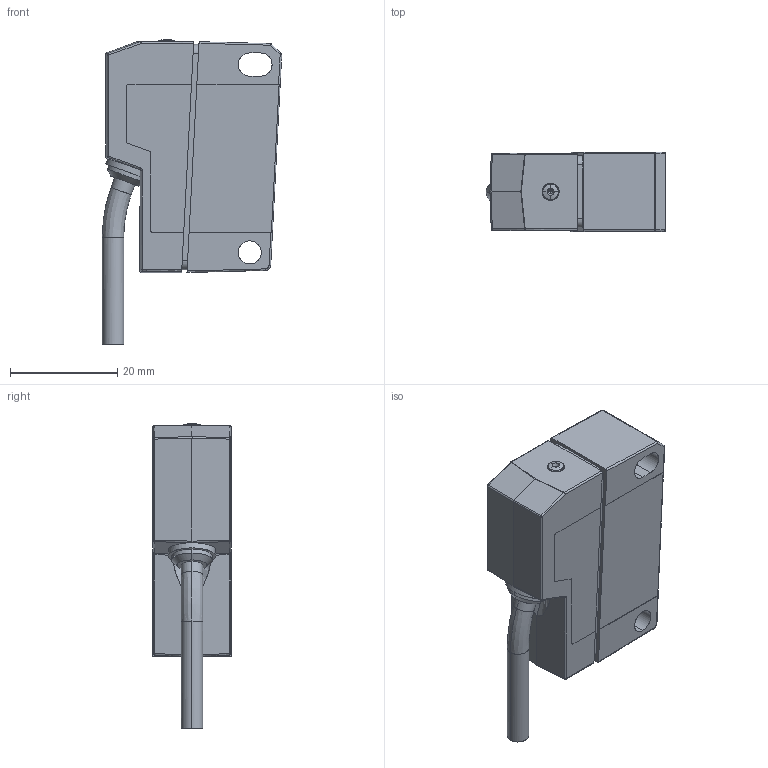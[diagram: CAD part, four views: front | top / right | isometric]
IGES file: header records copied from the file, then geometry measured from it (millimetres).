
Start section: Comment
Global section: file name: xxDK_14_TeachIn_Kabel.igs; native system:  By UGS Corp.; preprocessor: XPlus GENERIC/IGES 3.0; author: Author; organization: Title; date: 20101213.105723; units: millimetre
Bounding box: 33.43 x 14.8 x 56.8 mm (x, y, z)
Surface area: 5428.3 mm2 (no closed solid volume)
Topology: 0 solids, 0 shells, 151 faces, 724 edges, 718 vertices
Faces by surface type: bspline 151
